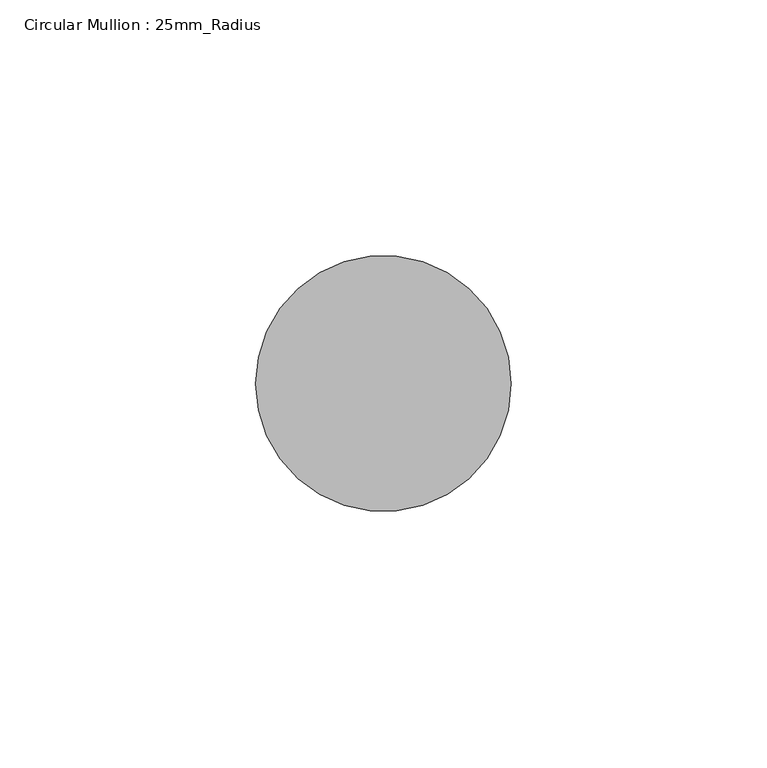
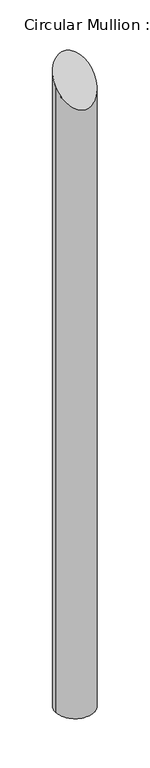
"""IFC4 building model written with IfcOpenShell, lengths in millimetres: member geometry, Circular Mullion : 25mm_Radius."""

import ifcopenshell
import ifcopenshell.guid

model = None  # the IFC model being written
_history = None  # IfcOwnerHistory: only IFC2X3 demands one
_inside = {}  # id of a spatial element -> (the spatial element, [elements in it])
_under = {}  # id of a project, library or spatial element -> (it, [spatial elements below it])
_declared = {}  # id of a project -> (the project, [libraries it declares])
_typed = {}  # id of a type object -> (the type object, [elements of that type])
_made_of = {}  # id of a material, layer set ... -> (it, [elements and type objects made of it])


def new_model(schema):
    """Start an empty IFC model of exactly this schema.

    Asked for "IFC4X3", IfcOpenShell would pick the latest addendum, in which some entities
    have other attributes; the version numbers below select the first issue.
    IFC2X3 requires an IfcOwnerHistory on every rooted entity: one is made here for all.
    """
    global model, _history
    if schema == "IFC4X3":
        model = ifcopenshell.file(schema_version=(4, 3, 0, 0))
    else:
        model = ifcopenshell.file(schema=schema)
    _inside.clear()
    _under.clear()
    _declared.clear()
    _typed.clear()
    _made_of.clear()
    _history = None
    if model.schema == "IFC2X3":
        org = make("IfcOrganization", Name="unknown")
        user = make(
            "IfcPersonAndOrganization",
            ThePerson=make("IfcPerson", FamilyName="unknown"),
            TheOrganization=org,
        )
        app = make(
            "IfcApplication",
            ApplicationDeveloper=org,
            Version="unknown",
            ApplicationFullName="unknown",
            ApplicationIdentifier="unknown",
        )
        _history = make(
            "IfcOwnerHistory",
            OwningUser=user,
            OwningApplication=app,
            ChangeAction="ADDED",
            CreationDate=0,
        )
    return model


def make(cls, **values):
    """One entity of the class cls with the attributes given. An attribute that is None is left unset."""
    return model.create_entity(
        cls, **{name: value for name, value in values.items() if value is not None}
    )


def rooted(cls, **values):
    """An entity with a GlobalId (a new one), such as an element, a storey or a relation."""
    return make(cls, GlobalId=ifcopenshell.guid.new(), OwnerHistory=_history, **values)


def si_unit(unit_type, name, prefix=None):
    """IfcSIUnit, for example si_unit("LENGTHUNIT", "METRE", prefix="MILLI")."""
    return make("IfcSIUnit", UnitType=unit_type, Prefix=prefix, Name=name)


def assignment(units):
    """IfcUnitAssignment: the units of a project."""
    return None if units is None else make("IfcUnitAssignment", Units=units)


def point(xyz):
    """IfcCartesianPoint."""
    return None if xyz is None else make("IfcCartesianPoint", Coordinates=xyz)


def direction(xyz):
    """IfcDirection."""
    return None if xyz is None else make("IfcDirection", DirectionRatios=xyz)


def frame(location, z_axis=None, x_axis=None):
    """IfcAxis2Placement3D, a coordinate frame: its origin and axes. An axis left out is left unset."""
    return make(
        "IfcAxis2Placement3D",
        Location=point(location),
        Axis=direction(z_axis),
        RefDirection=direction(x_axis),
    )


def origin():
    """The frame at (0, 0, 0) with its axes left unset."""
    return frame((0.0, 0.0, 0.0))


def place(relative_to, where):
    """IfcLocalPlacement: puts the frame where relative to a parent placement (None: the world)."""
    return make(
        "IfcLocalPlacement", PlacementRelTo=relative_to, RelativePlacement=where
    )


def context(
    kind, dimensions, precision=None, world=None, true_north=None, identifier=None
):
    """IfcGeometricRepresentationContext, for example the 3D "Model" context."""
    return make(
        "IfcGeometricRepresentationContext",
        ContextIdentifier=identifier,
        ContextType=kind,
        CoordinateSpaceDimension=dimensions,
        Precision=precision,
        WorldCoordinateSystem=world,
        TrueNorth=true_north,
    )


def project(units=None, contexts=None):
    """IfcProject with its units and contexts."""
    return rooted(
        "IfcProject",
        Name="project",
        RepresentationContexts=contexts,
        UnitsInContext=assignment(units),
    )


def spatial(cls, under=None, at=None, **own):
    """A site, building, storey or space (cls), placed at a placement, below another one or the project."""
    s = rooted(cls, ObjectPlacement=at, **own)
    if under is not None:
        _under.setdefault(under.id(), (under, []))[1].append(s)
    return s


def circle_curve(where, radius):
    """IfcCircle in the frame where."""
    return make("IfcCircle", Position=where, Radius=radius)


def ellipse_curve(where, semi_axis1, semi_axis2):
    """IfcEllipse in the frame where."""
    return make(
        "IfcEllipse", Position=where, SemiAxis1=semi_axis1, SemiAxis2=semi_axis2
    )


def shape(context_of_items, identifier, shape_type, items):
    """IfcShapeRepresentation: the items that make up one representation, for example the "Body"."""
    return make(
        "IfcShapeRepresentation",
        ContextOfItems=context_of_items,
        RepresentationIdentifier=identifier,
        RepresentationType=shape_type,
        Items=items,
    )


def source(mapping_origin, context_of_items, identifier, shape_type, items):
    """IfcRepresentationMap: a shape defined once, which mapped items show again and again."""
    return make(
        "IfcRepresentationMap",
        MappingOrigin=mapping_origin,
        MappedRepresentation=shape(context_of_items, identifier, shape_type, items),
    )


def transform(
    local_origin,
    x_axis=None,
    y_axis=None,
    z_axis=None,
    scale=None,
    scale2=None,
    scale3=None,
    uniform=True,
):
    """IfcCartesianTransformationOperator3D, or its non-uniform kind. x_axis, y_axis, z_axis: its Axis1, 2, 3."""
    if uniform:
        return make(
            "IfcCartesianTransformationOperator3D",
            Axis1=direction(x_axis),
            Axis2=direction(y_axis),
            LocalOrigin=point(local_origin),
            Scale=scale,
            Axis3=direction(z_axis),
        )
    return make(
        "IfcCartesianTransformationOperator3DnonUniform",
        Axis1=direction(x_axis),
        Axis2=direction(y_axis),
        LocalOrigin=point(local_origin),
        Scale=scale,
        Axis3=direction(z_axis),
        Scale2=scale2,
        Scale3=scale3,
    )


def mapped(mapping_source, mapping_target):
    """IfcMappedItem: shows the shape of a source again, moved by a transform."""
    return make(
        "IfcMappedItem", MappingSource=mapping_source, MappingTarget=mapping_target
    )


def made_of(thing, what):
    """Note that an element or type object is made of a material, layer set ...; save() writes the relation."""
    if what is not None:
        _made_of.setdefault(what.id(), (what, []))[1].append(thing)
    return thing


def element(
    cls,
    number,
    at=None,
    inside=None,
    cuts=None,
    type_object=None,
    material=None,
    context=None,
    identifier="Body",
    shape_type=None,
    held_by="IfcProductDefinitionShape",
    body=None,
    shapes=None,
    **own,
):
    """One element of the class cls, such as IfcWall. Its Tag is "e" and its number.

    at: its placement. inside: the storey or other place that contains it. cuts: it is an
    opening in that element (IfcRelVoidsElement). A single representation is given by context,
    identifier, shape_type and body (its items); several are given by shapes. held_by: the class
    of the entity that holds the representations. save() writes the other relations.
    """
    e = rooted(cls, Tag="e%d" % number, ObjectPlacement=at, **own)
    if body is not None:
        shapes = [shape(context, identifier, shape_type, body)]
    if shapes is not None:
        e.Representation = make(held_by, Representations=shapes)
    if inside is not None:
        _inside.setdefault(inside.id(), (inside, []))[1].append(e)
    if cuts is not None:
        rooted(
            "IfcRelVoidsElement", RelatingBuildingElement=cuts, RelatedOpeningElement=e
        )
    if type_object is not None:
        _typed.setdefault(type_object.id(), (type_object, []))[1].append(e)
    return made_of(e, material)


def aggregate(whole, parts):
    """IfcRelAggregates: a whole, such as a stair, and the parts it consists of."""
    return rooted("IfcRelAggregates", RelatingObject=whole, RelatedObjects=parts)


def save(model, path):
    """Write the relations noted so far, then the file.

    IfcRelAggregates (storeys below a building ...), IfcRelContainedInSpatialStructure (elements
    in a storey), IfcRelDefinesByType, IfcRelAssociatesMaterial and IfcRelDeclares: one each for
    every whole, place, type object, material and project.
    """
    for whole, parts in _under.values():
        aggregate(whole, parts)
    for where, things in _inside.values():
        rooted(
            "IfcRelContainedInSpatialStructure",
            RelatedElements=things,
            RelatingStructure=where,
        )
    for kind, things in _typed.values():
        rooted("IfcRelDefinesByType", RelatedObjects=things, RelatingType=kind)
    for what, things in _made_of.values():
        rooted("IfcRelAssociatesMaterial", RelatedObjects=things, RelatingMaterial=what)
    for by, libraries in _declared.values():
        rooted("IfcRelDeclares", RelatingContext=by, RelatedDefinitions=libraries)
    model.write(path)


def plane_surface(at):
    """IfcPlane: the flat surface through the origin of the frame at, square to its z axis."""
    return make("IfcPlane", Position=at)


def cylinder_surface(at, radius):
    """IfcCylindricalSurface: all points at the distance radius from the z axis of the frame at."""
    return make("IfcCylindricalSurface", Position=at, Radius=radius)


def advanced_brep(points, edges, surfaces, faces):
    """IfcAdvancedBrep: a solid bounded by faces that lie on surfaces and meet in shared edges.

    An edge is (start, end): straight between two places in points (the first is 0);
    or (start, end, curve); or (start, end, curve, False) where it runs against its curve.
    A face is (place in surfaces, loops), or (place, loops, False) where it looks against
    its surface's normal. A loop lists edges by number (the first is 1), with a minus sign
    where the edge is run from its end to its start. The first loop is the outer one.
    """
    corners = [point(p) for p in points]
    vertices = [make("IfcVertexPoint", VertexGeometry=c) for c in corners]
    made = []
    for start, end, *more in edges:
        made.append(
            make(
                "IfcEdgeCurve",
                EdgeStart=vertices[start],
                EdgeEnd=vertices[end],
                EdgeGeometry=more[0] if more else make("IfcPolyline", Points=[corners[start], corners[end]]),
                SameSense=more[1] if len(more) > 1 else True,
            )
        )
    hull = []
    for where, loops, *sense in faces:
        bounds = []
        for j, loop in enumerate(loops):
            ring = [make("IfcOrientedEdge", EdgeElement=made[abs(k) - 1], Orientation=k > 0) for k in loop]
            bounds.append(
                make(
                    "IfcFaceOuterBound" if j == 0 else "IfcFaceBound",
                    Bound=make("IfcEdgeLoop", EdgeList=ring),
                    Orientation=True,
                )
            )
        hull.append(make("IfcAdvancedFace", Bounds=bounds, FaceSurface=surfaces[where], SameSense=sense[0] if sense else True))
    return make("IfcAdvancedBrep", Outer=make("IfcClosedShell", CfsFaces=hull))


def circular_mullion_25mm_radius_6d24cc44(model_context):
    return source(origin(), model_context, "Body", "AdvancedBrep", [
        advanced_brep(
        [(0.0, 0.0, -856.0), (-50.0, 0.0, -856.0), (-50.0, 0.0, 0.0), (0.0, 0.0, 0.0)],
        [
            (0, 1, circle_curve(frame((-25.0, 0.0, -856.0), z_axis=(0.0, 0.0, -1.0), x_axis=(1.0, 0.0, 0.0)), 25.0)),
            (1, 0, circle_curve(frame((-25.0, 0.0, -856.0), z_axis=(0.0, 0.0, -1.0), x_axis=(1.0, 0.0, 0.0)), 25.0)),
            (2, 3, ellipse_curve(frame((-25.0, 0.0, 0.0), z_axis=(0.0, 0.7071067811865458, -0.7071067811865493), x_axis=(0.0, 0.7071067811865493, 0.7071067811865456)), 35.3553391, 25.0)),
            (3, 0),
            (1, 2),
            (3, 2, ellipse_curve(frame((-25.0, 0.0, 0.0), z_axis=(0.0, 0.7071067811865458, -0.7071067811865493), x_axis=(0.0, 0.7071067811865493, 0.7071067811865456)), 35.3553391, 25.0)),
        ],
        [
            plane_surface(frame((0.0, -50.0, -856.0), z_axis=(0.0, 0.0, -1.0), x_axis=(-1.0, 0.0, 0.0))),
            cylinder_surface(frame((-25.0, 0.0, 0.0), z_axis=(0.0, 0.0, 1.0), x_axis=(1.0, 0.0, 0.0)), 25.0),
            plane_surface(frame((304.8, 0.0, 0.0), z_axis=(0.0, -0.7071067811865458, 0.7071067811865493), x_axis=(0.0, -0.7071067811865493, -0.7071067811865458))),
        ],
        [
            (0, [[1, 2]]),
            (1, [[3, 4, -2, 5]]),
            (1, [[6, -5, -1, -4]]),
            (2, [[-3, -6]]),
        ],
    ),
    ])


if __name__ == "__main__":
    model = new_model("IFC4")
    model_context = context("Model", 3, world=origin())
    ifc_project = project(units=[si_unit("LENGTHUNIT", "METRE", prefix="MILLI")], contexts=[model_context])
    site = spatial("IfcSite", under=ifc_project)
    building = spatial("IfcBuilding", under=site)
    placement = place(None, origin())
    circular_mullion_25mm_radius_shape = circular_mullion_25mm_radius_6d24cc44(model_context)
    element("IfcMember", 1, ObjectType="Circular Mullion : 25mm_Radius", at=placement, inside=building, context=model_context, shape_type="MappedRepresentation", body=[
        mapped(circular_mullion_25mm_radius_shape, transform((0.0, 0.0, 0.0), x_axis=(1.0, 0.0, 0.0), y_axis=(0.0, 1.0, 0.0), z_axis=(0.0, 0.0, 1.0))),
    ])
    save(model, "model.ifc")
